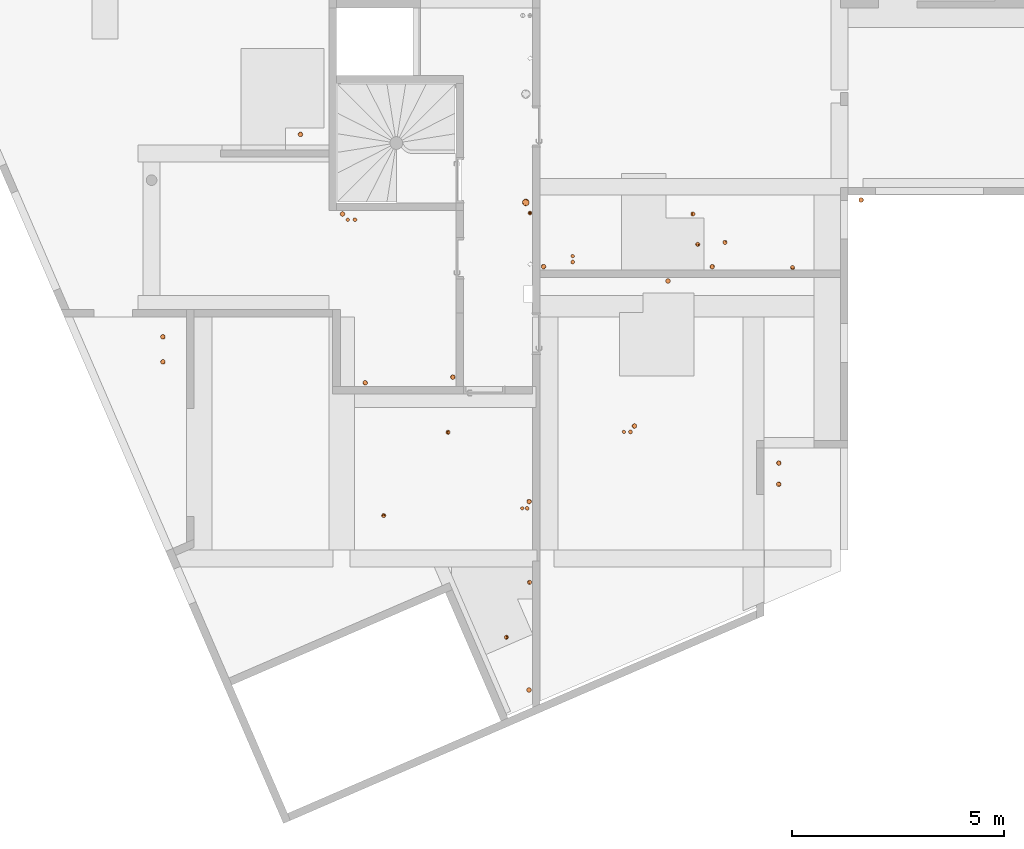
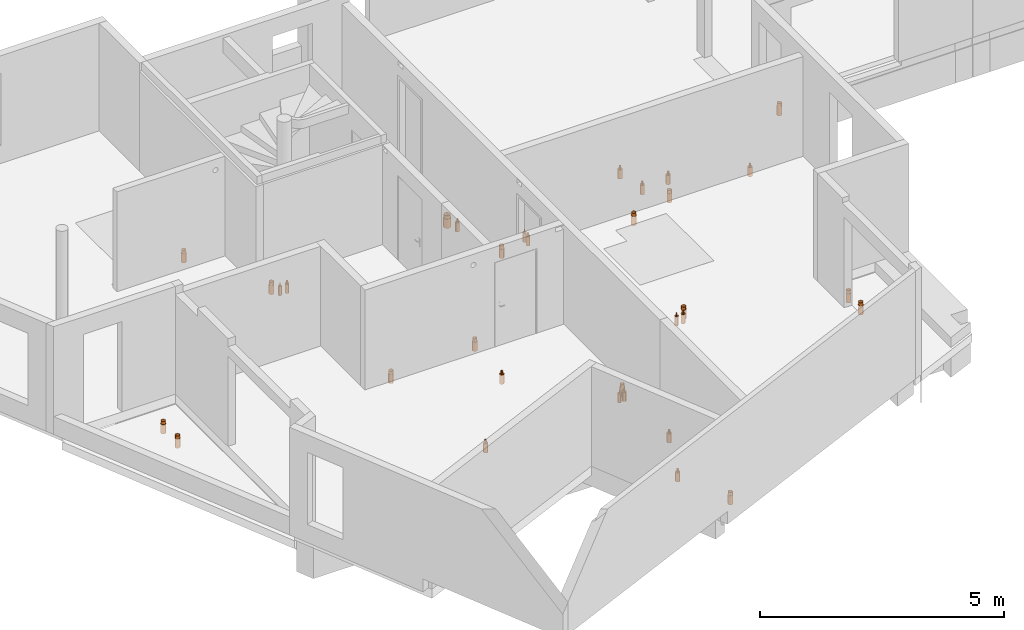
# One storey, part 28 of 34: 33 proxies.
"""IFC2X3 building model written with IfcOpenShell, lengths in centimetres."""

from ifc_helpers import new_model, entity, si_unit, converted_unit, derived_unit, direction, frame, frame_2d, origin, place, context, subcontext, project, spatial, circle, hollow_circle, extrude, source, transform, mapped, material, type_object, type_shapes, element, save


model = new_model("IFC2X3")

# Units and contexts
model_context = context("Model", 3, precision=0.001, world=origin(), true_north=direction((6.12303176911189e-17, 1.0)))
body_context = subcontext(model_context, "Body", "Model", "MODEL_VIEW")
ifc_project = project(units=[si_unit("LENGTHUNIT", "METRE", prefix="CENTI"), si_unit("AREAUNIT", "SQUARE_METRE"), si_unit("VOLUMEUNIT", "CUBIC_METRE"), converted_unit("PLANEANGLEUNIT", "DEGREE", entity("IfcRatioMeasure", 0.0174532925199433), si_unit("PLANEANGLEUNIT", "RADIAN"), dimensions=[0, 0, 0, 0, 0, 0, 0]), si_unit("MASSUNIT", "GRAM", prefix="KILO"), derived_unit("MASSDENSITYUNIT", [(si_unit("MASSUNIT", "GRAM", prefix="KILO"), 1), (si_unit("LENGTHUNIT", "METRE"), -3)]), si_unit("TIMEUNIT", "SECOND"), si_unit("FREQUENCYUNIT", "HERTZ"), si_unit("THERMODYNAMICTEMPERATUREUNIT", "DEGREE_CELSIUS"), derived_unit("THERMALTRANSMITTANCEUNIT", [(si_unit("MASSUNIT", "GRAM", prefix="KILO"), 1), (si_unit("THERMODYNAMICTEMPERATUREUNIT", "KELVIN"), -1), (si_unit("TIMEUNIT", "SECOND"), -3)]), derived_unit("VOLUMETRICFLOWRATEUNIT", [(si_unit("LENGTHUNIT", "METRE"), 3), (si_unit("TIMEUNIT", "SECOND"), -1)]), si_unit("ELECTRICCURRENTUNIT", "AMPERE"), si_unit("ELECTRICVOLTAGEUNIT", "VOLT"), si_unit("POWERUNIT", "WATT"), si_unit("FORCEUNIT", "NEWTON"), si_unit("ILLUMINANCEUNIT", "LUX"), si_unit("LUMINOUSFLUXUNIT", "LUMEN"), si_unit("LUMINOUSINTENSITYUNIT", "CANDELA"), derived_unit("USERDEFINED", [(si_unit("MASSUNIT", "GRAM", prefix="KILO"), -1), (si_unit("LENGTHUNIT", "METRE"), -2), (si_unit("TIMEUNIT", "SECOND"), 3), (si_unit("LUMINOUSFLUXUNIT", "LUMEN"), 1)]), derived_unit("LINEARVELOCITYUNIT", [(si_unit("LENGTHUNIT", "METRE"), 1), (si_unit("TIMEUNIT", "SECOND"), -1)]), si_unit("PRESSUREUNIT", "PASCAL"), derived_unit("USERDEFINED", [(si_unit("LENGTHUNIT", "METRE"), -2), (si_unit("MASSUNIT", "GRAM", prefix="KILO"), 1), (si_unit("TIMEUNIT", "SECOND"), -2)])], contexts=[model_context])

# Site, building, storey
site_placement = place(None, origin())
site = spatial("IfcSite", under=ifc_project, at=site_placement, Name="Default", CompositionType="ELEMENT")
building_placement = place(site_placement, origin())
building = spatial("IfcBuilding", under=site, at=building_placement, Name="CAGE 03", CompositionType="ELEMENT")
storey_placement = place(building_placement, frame((0.0, 0.0, 340.0)))
storey = spatial("IfcBuildingStorey", under=building, at=storey_placement, Name="R+1", CompositionType="ELEMENT", Elevation=340.0)

# Proxies
ifc_material_1 = material(Name="Conduit EU")
building_element_proxy_type_1 = type_object("IfcBuildingElementProxyType", Name="EU 100", PredefinedType="NOTDEFINED", material=ifc_material_1)
shared_shape_1 = source(origin(), body_context, "Body", "SweptSolid", [
    extrude(circle(Radius=5.5, at=frame_2d((0.0, -8.88549515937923e-15), x_axis=(1.0, 0.0))), frame((0.0, 0.0, -23.0)), (0.0, 0.0, 1.0), 23.0),
    extrude(hollow_circle(Radius=5.0, WallThickness=0.25, at=frame_2d((0.0, -8.07772287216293e-15), x_axis=(1.0, 0.0))), frame((0.0, 0.0, -23.0)), (0.0, 0.0, 1.0), 30.5),
])
type_shapes(building_element_proxy_type_1, [shared_shape_1])
proxy_1_placement = place(storey_placement, frame((4558.36481861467, 4500.40173587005, -4.46999646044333e-07)))
element("IfcBuildingElementProxy", 1, at=proxy_1_placement, inside=storey, type_object=building_element_proxy_type_1, material=ifc_material_1, Name="Galette - Résa - PVC:EU 100", ObjectType="EU 100", context=body_context, shape_type="MappedRepresentation", body=[
    mapped(shared_shape_1, transform((0.0, 0.0, 0.0), scale=1.0)),
])
for number, where, z_axis, x_axis, name in (
    (2, (4126.31717575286, 3502.00058207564, -4.46999591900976e-07), (0.0, 0.0, 1.0), (0.0, -1.0, 0.0), "Galette - Résa - PVC:EU 100"),
    (3, (4374.87721447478, 4124.41535228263, -4.46999591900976e-07), (0.0, 0.0, 1.0), (0.0, -1.0, 0.0), "Galette - Résa - PVC:EU 100"),
    (4, (3739.92904421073, 4226.1803536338, -4.46999591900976e-07), (0.0, 0.0, 1.0), (0.0, -1.0, 0.0), "Galette - Résa - PVC:EU 100"),
):
    element("IfcBuildingElementProxy", number, at=place(storey_placement, frame(where, z_axis=z_axis, x_axis=x_axis)), inside=storey, type_object=building_element_proxy_type_1, material=ifc_material_1, Name=name, ObjectType="EU 100", context=body_context, shape_type="MappedRepresentation", body=[
        mapped(shared_shape_1, transform((0.0, 0.0, 0.0), scale=1.0)),
    ])
for number, where, name in (
    (5, (4454.0951134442, 4466.43497605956, -4.46999646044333e-07), "Galette - Résa - PVC:EU 100"),
    (6, (4160.6593673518, 4500.3447932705, -4.46999646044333e-07), "Galette - Résa - PVC:EU 100"),
    (7, (3686.59725003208, 4624.40274501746, -4.46999646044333e-07), "Galette - Résa - PVC:EU 100"),
    (8, (3587.36582014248, 4812.16066607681, -4.46999646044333e-07), "Galette - Résa - PVC:EU 100"),
):
    element("IfcBuildingElementProxy", number, at=place(storey_placement, frame(where)), inside=storey, type_object=building_element_proxy_type_1, material=ifc_material_1, Name=name, ObjectType="EU 100", context=body_context, shape_type="MappedRepresentation", body=[
        mapped(shared_shape_1, transform((0.0, 0.0, 0.0), scale=1.0)),
    ])
for number, where, z_axis, x_axis, name in (
    (9, (4126.59575387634, 3946.26409132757, -4.46999591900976e-07), (0.0, 0.0, 1.0), (0.0, -1.0, 0.0), "Galette - Résa - PVC:EU 100"),
    (10, (3946.57939456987, 4239.91131722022, -4.46999591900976e-07), (0.0, 0.0, 1.0), (0.0, -1.0, 0.0), "Galette - Résa - PVC:EU 100"),
):
    element("IfcBuildingElementProxy", number, at=place(storey_placement, frame(where, z_axis=z_axis, x_axis=x_axis)), inside=storey, type_object=building_element_proxy_type_1, material=ifc_material_1, Name=name, ObjectType="EU 100", context=body_context, shape_type="MappedRepresentation", body=[
        mapped(shared_shape_1, transform((0.0, 0.0, 0.0), scale=1.0)),
    ])
building_element_proxy_type_2 = type_object("IfcBuildingElementProxyType", Name="EU 50", PredefinedType="NOTDEFINED", material=ifc_material_1)
shared_shape_2 = source(origin(), body_context, "Body", "SweptSolid", [
    extrude(circle(Radius=5.0, at=frame_2d((0.0, -8.07772287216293e-15), x_axis=(1.0, 0.0))), frame((0.0, 0.0, -23.0)), (0.0, 0.0, 1.0), 23.0),
    extrude(hollow_circle(Radius=2.5, WallThickness=0.25, at=frame_2d((0.0, -4.03886143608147e-15), x_axis=(1.0, 0.0))), frame((0.0, 0.0, -23.0)), (0.0, 0.0, 1.0), 30.5),
])
type_shapes(building_element_proxy_type_2, [shared_shape_2])
for number, where, z_axis, x_axis, name in (
    (11, (4512.73422983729, 4624.40431516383, -4.46999646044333e-07), (0.0, 0.0, 1.0), (0.0, 1.0, 0.0), "Galette - Résa - PVC:EU 50"),
    (12, (4747.78150081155, 4498.02991528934, -4.46999646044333e-07), (0.0, 0.0, 1.0), (0.0, 1.0, 0.0), "Galette - Résa - PVC:EU 50"),
    (13, (4524.25206532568, 4552.90019328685, -4.46999646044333e-07), (0.0, 0.0, 1.0), (0.0, 1.0, 0.0), "Galette - Résa - PVC:EU 50"),
    (14, (4127.55328500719, 3755.85025009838, -4.46999591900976e-07), (0.0, 0.0, 1.0), (0.0, -1.0, 0.0), "Galette - Résa - PVC:EU 50"),
    (15, (4072.94318592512, 3626.31863809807, -4.46999591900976e-07), (0.0, 0.0, 1.0), (0.0, -1.0, 0.0), "Galette - Résa - PVC:EU 50"),
    (16, (4588.25463984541, 4557.5028939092, -4.46999646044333e-07), (0.0, 0.0, 1.0), (0.0, 1.0, 0.0), "Galette - Résa - PVC:EU 50"),
    (17, (3935.56785996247, 4109.68451959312, -4.46999591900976e-07), (0.0, 0.0, 1.0), (0.0, -1.0, 0.0), "Galette - Résa - PVC:EU 50"),
    (18, (3783.70484251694, 3913.20051598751, -4.46999591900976e-07), (0.0, 0.0, 1.0), (0.0, -1.0, 0.0), "Galette - Résa - PVC:EU 50"),
):
    element("IfcBuildingElementProxy", number, at=place(storey_placement, frame(where, z_axis=z_axis, x_axis=x_axis)), inside=storey, type_object=building_element_proxy_type_2, material=ifc_material_1, Name=name, ObjectType="EU 50", context=body_context, shape_type="MappedRepresentation", body=[
        mapped(shared_shape_2, transform((0.0, 0.0, 0.0), scale=1.0)),
    ])
ifc_material_2 = material(Name="Conduit EP")
building_element_proxy_type_3 = type_object("IfcBuildingElementProxyType", Name="EP 100", PredefinedType="NOTDEFINED", material=ifc_material_2)
shared_shape_3 = source(origin(), body_context, "Body", "SweptSolid", [
    extrude(circle(Radius=5.5, at=frame_2d((0.0, -8.88549515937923e-15), x_axis=(1.0, 0.0))), frame((0.0, 0.0, -23.0)), (0.0, 0.0, 1.0), 23.0),
    extrude(hollow_circle(Radius=5.0, WallThickness=0.25, at=frame_2d((0.0, -8.07772287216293e-15), x_axis=(1.0, 0.0))), frame((0.0, 0.0, -23.0)), (0.0, 0.0, 1.0), 30.5),
])
type_shapes(building_element_proxy_type_3, [shared_shape_3])
for number, where, name in (
    (19, (4909.37165808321, 4657.36489825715, -4.46999646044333e-07), "Galette - Résa - PVC:EP 100"),
    (20, (4715.36310634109, 4037.1602392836, -25.0), "Galette - Résa - PVC:EP 100"),
    (21, (3263.03360394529, 4334.6934883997, -25.0), "Galette - Résa - PVC:EP 100"),
    (22, (3263.03360394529, 4275.69348839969, -25.0), "Galette - Résa - PVC:EP 100"),
    (23, (4715.36579474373, 3987.16273909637, -25.0), "Galette - Résa - PVC:EP 100"),
):
    element("IfcBuildingElementProxy", number, at=place(storey_placement, frame(where)), inside=storey, type_object=building_element_proxy_type_3, material=ifc_material_2, Name=name, ObjectType="EP 100", context=body_context, shape_type="MappedRepresentation", body=[
        mapped(shared_shape_3, transform((0.0, 0.0, 0.0), scale=1.0)),
    ])
building_element_proxy_type_4 = type_object("IfcBuildingElementProxyType", Name="EP 140", PredefinedType="NOTDEFINED", material=ifc_material_2)
shared_shape_4 = source(origin(), body_context, "Body", "SweptSolid", [
    extrude(circle(Radius=8.0, at=frame_2d((0.0, -1.29243565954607e-14), x_axis=(1.0, 0.0))), frame((0.0, 0.0, -23.0)), (0.0, 0.0, 1.0), 23.0),
    extrude(hollow_circle(Radius=7.0, WallThickness=0.25, at=frame_2d((0.0, -1.13088120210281e-14), x_axis=(1.0, 0.0))), frame((0.0, 0.0, -23.0)), (0.0, 0.0, 1.0), 30.5),
])
type_shapes(building_element_proxy_type_4, [shared_shape_4])
proxy_2_placement = place(storey_placement, frame((4118.7448452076, 4651.62070743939, -4.46999646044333e-07)))
element("IfcBuildingElementProxy", 24, at=proxy_2_placement, inside=storey, type_object=building_element_proxy_type_4, material=ifc_material_2, Name="Galette - Résa - PVC:EP 140", ObjectType="EP 140", context=body_context, shape_type="MappedRepresentation", body=[
    mapped(shared_shape_4, transform((0.0, 0.0, 0.0), scale=1.0)),
])
ifc_material_3 = material(Name="Circuit EF")
building_element_proxy_type_5 = type_object("IfcBuildingElementProxyType", Name="EF 40", PredefinedType="NOTDEFINED", material=ifc_material_3)
shared_shape_5 = source(origin(), body_context, "Body", "SweptSolid", [
    extrude(circle(Radius=4.5, at=frame_2d((0.0, -7.26995058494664e-15), x_axis=(1.0, 0.0))), frame((0.0, 0.0, -23.0)), (0.0, 0.0, 1.0), 23.0),
    extrude(hollow_circle(Radius=2.2, WallThickness=0.449999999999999, at=frame_2d((0.0, -3.55419806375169e-15), x_axis=(1.0, 0.0))), frame((0.0, 0.0, -23.0)), (0.0, 0.0, 1.0), 30.5),
])
type_shapes(building_element_proxy_type_5, [shared_shape_5])
proxy_3_placement = place(storey_placement, frame((4128.59495990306, 4626.63859506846, -4.46999646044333e-07)))
element("IfcBuildingElementProxy", 25, at=proxy_3_placement, inside=storey, type_object=building_element_proxy_type_5, material=ifc_material_3, Name="Galette - Résa - PVC:EF 40", ObjectType="EF 40", context=body_context, shape_type="MappedRepresentation", body=[
    mapped(shared_shape_5, transform((0.0, 0.0, 0.0), scale=1.0)),
])
ifc_material_4 = material(Name="Circuit ECS Aller")
building_element_proxy_type_6 = type_object("IfcBuildingElementProxyType", Name="ECS Aller 32", PredefinedType="NOTDEFINED", material=ifc_material_4)
shared_shape_6 = source(origin(), body_context, "Body", "SweptSolid", [
    extrude(circle(Radius=4.5, at=frame_2d((0.0, -7.26995058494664e-15), x_axis=(1.0, 0.0))), frame((0.0, 0.0, -23.0)), (0.0, 0.0, 1.0), 23.0),
    extrude(hollow_circle(Radius=1.6, WallThickness=0.05, at=frame_2d((0.0, -2.58487131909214e-15), x_axis=(1.0, 0.0))), frame((0.0, 0.0, -23.0)), (0.0, 0.0, 1.0), 30.5),
])
type_shapes(building_element_proxy_type_6, [shared_shape_6])
for number, where, name in (
    (26, (4229.33361205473, 4511.12957820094, -4.46999646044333e-07), "Galette - Résa - PVC:ECS Aller 32"),
    (27, (4365.58327257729, 4110.509063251, -4.46999646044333e-07), "Galette - Résa - PVC:ECS Aller 32"),
    (28, (3715.82551820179, 4610.91348814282, -4.46999646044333e-07), "Galette - Résa - PVC:ECS Aller 32"),
):
    element("IfcBuildingElementProxy", number, at=place(storey_placement, frame(where)), inside=storey, type_object=building_element_proxy_type_6, material=ifc_material_4, Name=name, ObjectType="ECS Aller 32", context=body_context, shape_type="MappedRepresentation", body=[
        mapped(shared_shape_6, transform((0.0, 0.0, 0.0), scale=1.0)),
    ])
proxy_4_placement = place(storey_placement, frame((4121.86095118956, 3930.24764274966, -4.46999591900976e-07), z_axis=(0.0, 0.0, 1.0), x_axis=(0.0, -1.0, 0.0)))
element("IfcBuildingElementProxy", 29, at=proxy_4_placement, inside=storey, type_object=building_element_proxy_type_6, material=ifc_material_4, Name="Galette - Résa - PVC:ECS Aller 32", ObjectType="ECS Aller 32", context=body_context, shape_type="MappedRepresentation", body=[
    mapped(shared_shape_6, transform((0.0, 0.0, 0.0), scale=1.0)),
])
ifc_material_5 = material(Name="Circuit ECS Retour")
building_element_proxy_type_7 = type_object("IfcBuildingElementProxyType", Name="ECS Retour 20", PredefinedType="NOTDEFINED", material=ifc_material_5)
shared_shape_7 = source(origin(), body_context, "Body", "SweptSolid", [
    extrude(circle(Radius=4.0, at=frame_2d((0.0, -6.46217829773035e-15), x_axis=(1.0, 0.0))), frame((0.0, 0.0, -23.0)), (0.0, 0.0, 1.0), 23.0),
    extrude(hollow_circle(Radius=1.0, WallThickness=0.0500000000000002, at=frame_2d((0.0, -1.61554457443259e-15), x_axis=(1.0, 0.0))), frame((0.0, 0.0, -23.0)), (0.0, 0.0, 1.0), 30.5),
])
type_shapes(building_element_proxy_type_7, [shared_shape_7])
for number, where, name in (
    (30, (4229.33361205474, 4525.12957820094, -4.46999646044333e-07), "Galette - Résa - PVC:ECS Retour 20"),
    (31, (4350.08327257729, 4110.509063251, -4.46999646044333e-07), "Galette - Résa - PVC:ECS Retour 20"),
    (32, (3698.87015670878, 4610.91348814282, -4.46999646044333e-07), "Galette - Résa - PVC:ECS Retour 20"),
):
    element("IfcBuildingElementProxy", number, at=place(storey_placement, frame(where)), inside=storey, type_object=building_element_proxy_type_7, material=ifc_material_5, Name=name, ObjectType="ECS Retour 20", context=body_context, shape_type="MappedRepresentation", body=[
        mapped(shared_shape_7, transform((0.0, 0.0, 0.0), scale=1.0)),
    ])
proxy_5_placement = place(storey_placement, frame((4110.36095118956, 3930.24764274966, -4.46999591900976e-07), z_axis=(0.0, 0.0, 1.0), x_axis=(0.0, -1.0, 0.0)))
element("IfcBuildingElementProxy", 33, at=proxy_5_placement, inside=storey, type_object=building_element_proxy_type_7, material=ifc_material_5, Name="Galette - Résa - PVC:ECS Retour 20", ObjectType="ECS Retour 20", context=body_context, shape_type="MappedRepresentation", body=[
    mapped(shared_shape_7, transform((0.0, 0.0, 0.0), scale=1.0)),
])

save(model, "model.ifc")
